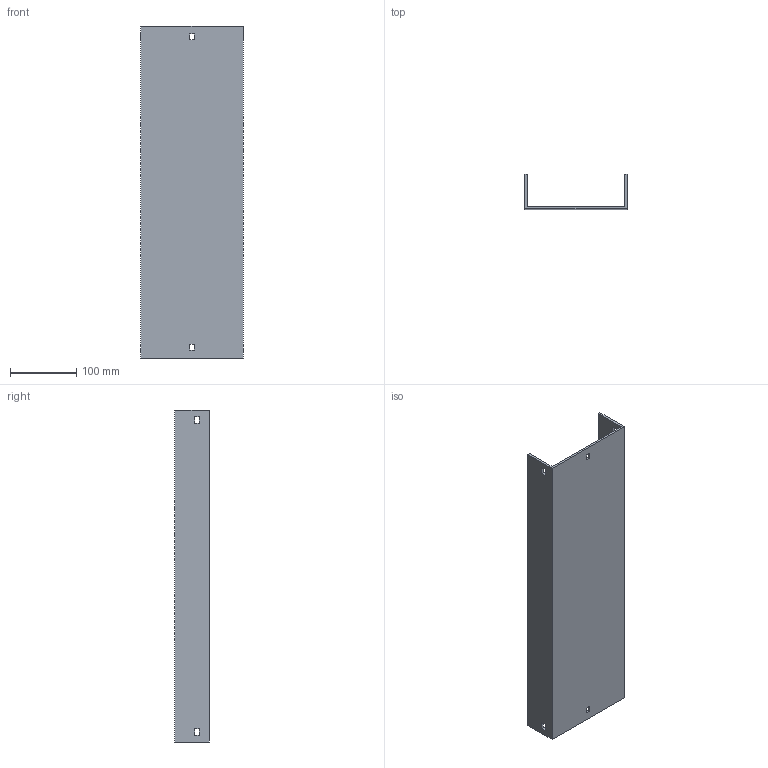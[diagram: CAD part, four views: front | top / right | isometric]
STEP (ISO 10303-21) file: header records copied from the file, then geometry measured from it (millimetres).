
FILE_DESCRIPTION (( 'STEP AP214' ), '1' );
FILE_NAME ('03F7B150.step', '2025-02-21T13:24:41', ( '' ), ( '' ), 'SwSTEP 2.0', 'SolidWorks 2023', '' );
FILE_SCHEMA (( 'AUTOMOTIVE_DESIGN' ));
Length unit declared in the file: millimetre
Products named in the file (1): 03F7B150
Bounding box: 154 x 52 x 500 mm (x, y, z)
Volume: 437860.5 mm3; surface area: 256156 mm2
Topology: 1 solids, 1 shells, 34 faces, 96 edges, 64 vertices
Faces by surface type: plane 34
Entity records: 1127 total; most frequent: CARTESIAN_POINT 195, ORIENTED_EDGE 192, DIRECTION 166, EDGE_CURVE 96, LINE 96, VECTOR 96, VERTEX_POINT 64, EDGE_LOOP 46
